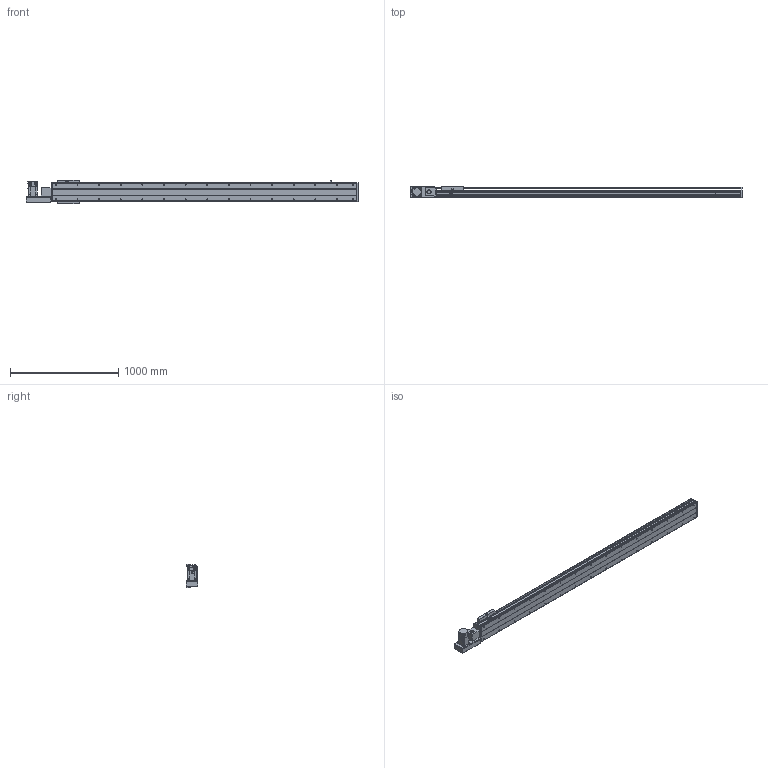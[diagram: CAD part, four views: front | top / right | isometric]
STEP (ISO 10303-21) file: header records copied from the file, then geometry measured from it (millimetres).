
FILE_DESCRIPTION(/* description */ ('STEP AP214'),/* implementation_level */ '2;1');
FILE_NAME(/* name */ 'PBS200-P40-S2450-L-T75-C1-N(0)',/* time_stamp */ '2022-06-11T07:50:46+02:00',/* author */ ('License CC BY-ND 4.0'),/* organization */ ('CADENAS'),/* preprocessor_version */ 'ST-DEVELOPER v18.102',/* originating_system */ 'PARTsolutions',/* authorisation */ ' ');
FILE_SCHEMA (('AUTOMOTIVE_DESIGN {1 0 10303 214 3 1 1}'));
Length unit declared in the file: millimetre
Products named in the file (7): PBS200-P40-S2450-L-T75-C1-N(0); PBS200_sensor; PBS200_plant; PBS200_sliser; T75-p1; PBS200T-L_motors; PBS200-S2450()_body
Assembly tree (8 placements, depth 2):
  PBS200-P40-S2450-L-T75-C1-N(0)
    PBS200_sensor  x3
    PBS200_plant
    PBS200_sliser
    T75-p1
    PBS200T-L_motors
    PBS200-S2450()_body
Bounding box: 3072 x 109 x 221 mm (x, y, z)
Volume: 20291827.3 mm3; surface area: 3247048.3 mm2
Topology: 8 solids, 8 shells, 962 faces, 2444 edges, 1590 vertices
Faces by surface type: plane 588, cylinder 312, cone 62
Full cylindrical faces by diameter (mm): 2.459 x6, 3.242 x4, 4.5 x6, 4.917 x4, 5 x6, 6 x7, 6.6 x8, 6.647 x34, 8 x6, 10 x4, 12 x8, 38 x2, 40 x1, 70 x1
Entity records: 25421 total; most frequent: DIRECTION 4495, CARTESIAN_POINT 4318, ORIENTED_EDGE 4066, EDGE_CURVE 2033, AXIS2_PLACEMENT_3D 1591, VERTEX_POINT 1414, LINE 1313, VECTOR 1313
